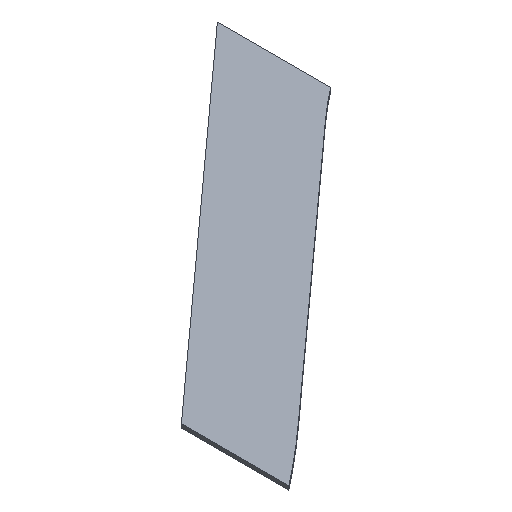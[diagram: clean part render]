
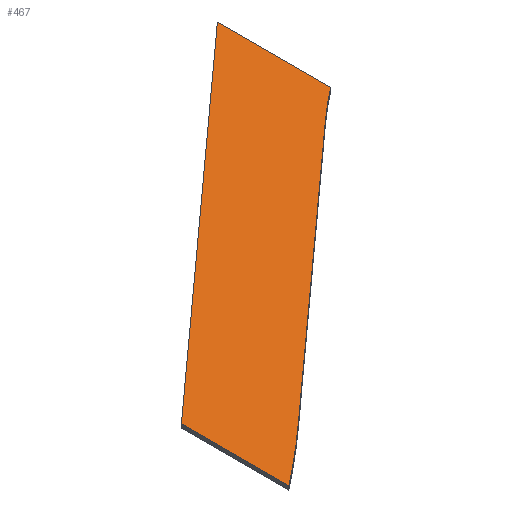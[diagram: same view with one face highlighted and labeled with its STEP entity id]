
A CAD part, isometric view. The second image highlights one B-rep face of the part: STEP entity #467.
In plain terms, the highlighted planar face has unit normal (0, 0, 1).
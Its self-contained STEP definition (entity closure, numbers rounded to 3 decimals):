
#359=PLANE('',#457);
#363=CIRCLE('',#450,2717.17);
#364=CIRCLE('',#455,1690.659);
#386=ORIENTED_EDGE('',*,*,#417,.F.);
#387=ORIENTED_EDGE('',*,*,#430,.F.);
#388=ORIENTED_EDGE('',*,*,#427,.F.);
#389=ORIENTED_EDGE('',*,*,#426,.F.);
#390=ORIENTED_EDGE('',*,*,#423,.T.);
#391=ORIENTED_EDGE('',*,*,#420,.F.);
#403=VERTEX_POINT('',#635);
#405=VERTEX_POINT('',#639);
#407=VERTEX_POINT('',#644);
#409=VERTEX_POINT('',#650);
#411=VERTEX_POINT('',#656);
#412=VERTEX_POINT('',#661);
#417=EDGE_CURVE('',#405,#403,#363,.T.);
#420=EDGE_CURVE('',#403,#407,#697,.T.);
#423=EDGE_CURVE('',#409,#407,#700,.T.);
#426=EDGE_CURVE('',#409,#411,#703,.T.);
#427=EDGE_CURVE('',#411,#412,#364,.T.);
#430=EDGE_CURVE('',#412,#405,#705,.T.);
#437=EDGE_LOOP('',(#386,#387,#388,#389,#390,#391));
#445=FACE_BOUND('',#437,.T.);
#450=AXIS2_PLACEMENT_3D('',#641,#499,#500);
#455=AXIS2_PLACEMENT_3D('',#662,#518,#519);
#457=AXIS2_PLACEMENT_3D('',#666,#523,#524);
#467=ADVANCED_FACE('',(#445),#359,.T.);
#499=DIRECTION('',(0.,0.,-1.));
#500=DIRECTION('',(825.357,-2588.784,0.));
#505=DIRECTION('',(0.,286.209,0.));
#510=DIRECTION('',(-975.,-879.241,0.));
#515=DIRECTION('',(0.,-301.811,0.));
#518=DIRECTION('',(0.,0.,1.));
#519=DIRECTION('',(-1132.23,1255.542,0.));
#523=DIRECTION('',(0.,0.,1.));
#524=DIRECTION('',(0.,-1.,0.));
#525=DIRECTION('',(-731.196,-659.382,0.));
#557=VECTOR('',#505,1.);
#560=VECTOR('',#510,1.);
#563=VECTOR('',#515,1.);
#565=VECTOR('',#525,1.);
#635=CARTESIAN_POINT('',(930.,516.073,10.));
#639=CARTESIAN_POINT('',(1083.275,644.262,10.));
#641=CARTESIAN_POINT('',(-735.357,2663.071,10.));
#644=CARTESIAN_POINT('',(930.,802.283,10.));
#647=CARTESIAN_POINT('',(930.,516.073,10.));
#650=CARTESIAN_POINT('',(1905.,1681.524,10.));
#653=CARTESIAN_POINT('',(1905.,1681.524,10.));
#656=CARTESIAN_POINT('',(1905.,1379.713,10.));
#659=CARTESIAN_POINT('',(1905.,1681.524,10.));
#661=CARTESIAN_POINT('',(1814.471,1303.643,10.));
#662=CARTESIAN_POINT('',(2946.701,48.101,10.));
#666=CARTESIAN_POINT('',(0.,0.,10.));
#667=CARTESIAN_POINT('',(1814.471,1303.643,10.));
#697=LINE('',#647,#557);
#700=LINE('',#653,#560);
#703=LINE('',#659,#563);
#705=LINE('',#667,#565);
